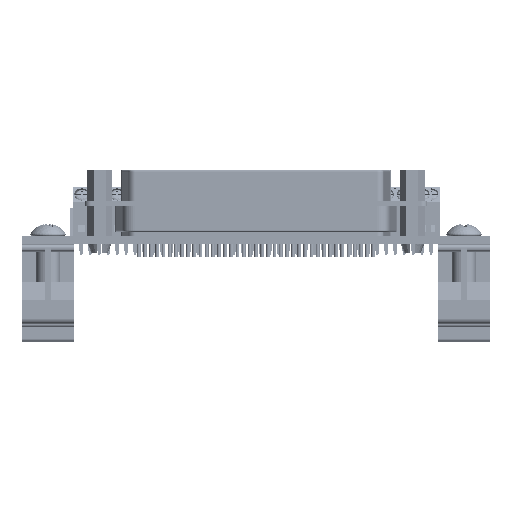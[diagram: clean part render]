
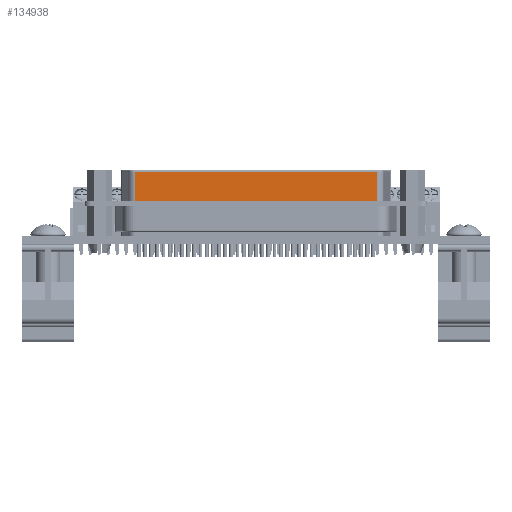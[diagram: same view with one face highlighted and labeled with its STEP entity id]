
A CAD part, left-side view. The second image highlights one B-rep face of the part: STEP entity #134938.
In plain terms, the highlighted planar face has unit normal (-1, 0, 0) as drawn and (0, 0, 1) by its records, which use the part's own axes.
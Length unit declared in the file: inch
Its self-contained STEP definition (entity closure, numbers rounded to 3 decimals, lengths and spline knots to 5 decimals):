
#11906 = FACE_OUTER_BOUND ( 'NONE', #77788, .T. ) ;
#12665 = CARTESIAN_POINT ( 'NONE',  ( 0.93266, 0.26165, 0.21142 ) ) ;
#17569 = CARTESIAN_POINT ( 'NONE',  ( -0.93266, 0.27165, 0.21142 ) ) ;
#21473 = CARTESIAN_POINT ( 'NONE',  ( 0.93266, 0.27165, 0.21142 ) ) ;
#29410 = DIRECTION ( 'NONE',  ( 0., -1., 0. ) ) ;
#47940 = LINE ( 'NONE', #12665, #92322 ) ;
#48218 = DIRECTION ( 'NONE',  ( -1., 0., 0. ) ) ;
#49208 = DIRECTION ( 'NONE',  ( 0., -1., 0. ) ) ;
#49842 = ORIENTED_EDGE ( 'NONE', *, *, #117744, .T. ) ;
#53249 = VERTEX_POINT ( 'NONE', #121934 ) ;
#54649 = VECTOR ( 'NONE', #75441, 39.37008 ) ;
#66803 = LINE ( 'NONE', #17569, #107394 ) ;
#75441 = DIRECTION ( 'NONE',  ( 1., 0., 0. ) ) ;
#76234 = PLANE ( 'NONE',  #88597 ) ;
#77788 = EDGE_LOOP ( 'NONE', ( #145717, #133934, #49842, #128392 ) ) ;
#78309 = CARTESIAN_POINT ( 'NONE',  ( -0.93266, 0.26165, 0.21142 ) ) ;
#80259 = DIRECTION ( 'NONE',  ( 0., 0., -1. ) ) ;
#81917 = VERTEX_POINT ( 'NONE', #99791 ) ;
#82729 = CARTESIAN_POINT ( 'NONE',  ( 0.93266, 0.27165, 0.21142 ) ) ;
#88597 = AXIS2_PLACEMENT_3D ( 'NONE', #21473, #80259, #127591 ) ;
#90593 = VERTEX_POINT ( 'NONE', #150436 ) ;
#92322 = VECTOR ( 'NONE', #48218, 39.37008 ) ;
#97389 = EDGE_CURVE ( 'NONE', #81917, #53249, #122145, .T. ) ;
#98309 = VECTOR ( 'NONE', #49208, 39.37008 ) ;
#99141 = CARTESIAN_POINT ( 'NONE',  ( 0.93266, 0.03543, 0.21142 ) ) ;
#99791 = CARTESIAN_POINT ( 'NONE',  ( 0.93266, 0.26165, 0.21142 ) ) ;
#102265 = EDGE_CURVE ( 'NONE', #90593, #53249, #144959, .T. ) ;
#107394 = VECTOR ( 'NONE', #29410, 39.37008 ) ;
#114429 = EDGE_CURVE ( 'NONE', #81917, #150711, #47940, .T. ) ;
#117744 = EDGE_CURVE ( 'NONE', #150711, #90593, #66803, .T. ) ;
#121934 = CARTESIAN_POINT ( 'NONE',  ( 0.93266, 0.03543, 0.21142 ) ) ;
#122145 = LINE ( 'NONE', #82729, #98309 ) ;
#127591 = DIRECTION ( 'NONE',  ( -1., 0., 0. ) ) ;
#128392 = ORIENTED_EDGE ( 'NONE', *, *, #102265, .T. ) ;
#133934 = ORIENTED_EDGE ( 'NONE', *, *, #114429, .T. ) ;
#134938 = ADVANCED_FACE ( 'NONE', ( #11906 ), #76234, .F. ) ;
#144959 = LINE ( 'NONE', #99141, #54649 ) ;
#145717 = ORIENTED_EDGE ( 'NONE', *, *, #97389, .F. ) ;
#150436 = CARTESIAN_POINT ( 'NONE',  ( -0.93266, 0.03543, 0.21142 ) ) ;
#150711 = VERTEX_POINT ( 'NONE', #78309 ) ;
